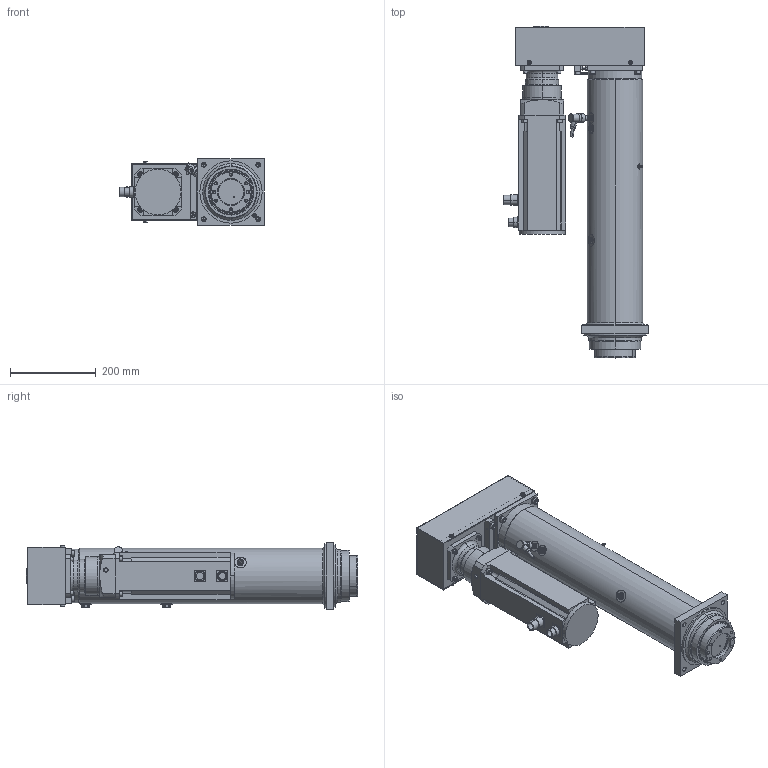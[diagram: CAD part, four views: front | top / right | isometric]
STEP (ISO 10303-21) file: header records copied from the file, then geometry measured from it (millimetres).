
FILE_DESCRIPTION (( 'STEP AP214' ), '1' );
FILE_NAME ('374023.STEP', '2017-10-16T08:34:56', ( 'admin' ), ( 'Microsoft' ), 'SwSTEP 2.0', 'SolidWorks 2016', '' );
FILE_SCHEMA (( 'AUTOMOTIVE_DESIGN' ));
Length unit declared in the file: millimetre
Products named in the file (1): 374023
Bounding box: 336.77 x 773.5 x 155 mm (x, y, z)
Volume: 10531005.9 mm3; surface area: 1468895.1 mm2
Topology: 49 solids, 49 shells, 1631 faces, 3803 edges, 2309 vertices
Faces by surface type: plane 659, cylinder 638, cone 274, torus 54, bspline 6
Entity records: 69776 total; most frequent: CARTESIAN_POINT 13791, DIRECTION 8228, ORIENTED_EDGE 7334, EDGE_CURVE 3667, AXIS2_PLACEMENT_3D 3189, VERTEX_POINT 2309, EDGE_LOOP 1980, VECTOR 1850
